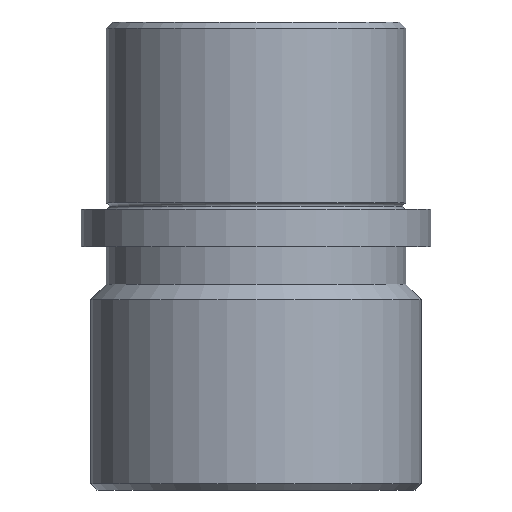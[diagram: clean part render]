
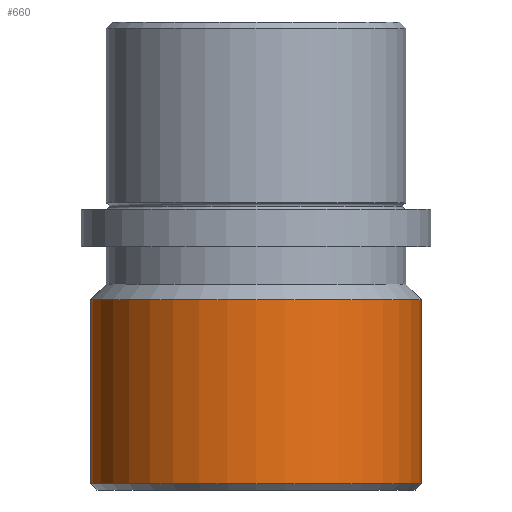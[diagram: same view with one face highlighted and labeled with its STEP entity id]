
A CAD part, front view. The second image highlights one B-rep face of the part: STEP entity #660.
In plain terms, the highlighted cylindrical face has radius 26.5 mm (diameter 53 mm), a partial arc.
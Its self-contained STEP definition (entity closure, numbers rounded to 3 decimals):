
#15 = ORIENTED_EDGE ( 'NONE', *, *, #903, .T. ) ;
#22 = DIRECTION ( 'NONE',  ( 1., 0., 0. ) ) ;
#46 = DIRECTION ( 'NONE',  ( 1., 0., 0. ) ) ;
#48 = EDGE_CURVE ( 'NONE', #386, #240, #779, .T. ) ;
#51 = DIRECTION ( 'NONE',  ( 0., 0., 1. ) ) ;
#91 = ORIENTED_EDGE ( 'NONE', *, *, #249, .F. ) ;
#118 = AXIS2_PLACEMENT_3D ( 'NONE', #262, #273, #46 ) ;
#175 = CARTESIAN_POINT ( 'NONE',  ( -26.5, 0., -44.5 ) ) ;
#181 = DIRECTION ( 'NONE',  ( 0., 0., 1. ) ) ;
#207 = AXIS2_PLACEMENT_3D ( 'NONE', #538, #51, #625 ) ;
#240 = VERTEX_POINT ( 'NONE', #707 ) ;
#249 = EDGE_CURVE ( 'NONE', #737, #786, #643, .T. ) ;
#262 = CARTESIAN_POINT ( 'NONE',  ( 0., 0., 0. ) ) ;
#273 = DIRECTION ( 'NONE',  ( 0., 0., 1. ) ) ;
#285 = AXIS2_PLACEMENT_3D ( 'NONE', #1026, #512, #22 ) ;
#290 = FACE_OUTER_BOUND ( 'NONE', #839, .T. ) ;
#319 = LINE ( 'NONE', #356, #514 ) ;
#356 = CARTESIAN_POINT ( 'NONE',  ( -26.5, 0., 0. ) ) ;
#386 = VERTEX_POINT ( 'NONE', #959 ) ;
#491 = CYLINDRICAL_SURFACE ( 'NONE', #118, 26.5 ) ;
#506 = LINE ( 'NONE', #961, #963 ) ;
#512 = DIRECTION ( 'NONE',  ( 0., 0., 1. ) ) ;
#514 = VECTOR ( 'NONE', #181, 1000. ) ;
#538 = CARTESIAN_POINT ( 'NONE',  ( 0., 0., -44.5 ) ) ;
#591 = ORIENTED_EDGE ( 'NONE', *, *, #48, .T. ) ;
#625 = DIRECTION ( 'NONE',  ( 1., 0., 0. ) ) ;
#643 = CIRCLE ( 'NONE', #207, 26.5 ) ;
#660 = ADVANCED_FACE ( 'NONE', ( #290 ), #491, .T. ) ;
#666 = EDGE_CURVE ( 'NONE', #386, #737, #319, .T. ) ;
#703 = DIRECTION ( 'NONE',  ( 0., 0., 1. ) ) ;
#707 = CARTESIAN_POINT ( 'NONE',  ( 26.5, 0., -74. ) ) ;
#737 = VERTEX_POINT ( 'NONE', #175 ) ;
#779 = CIRCLE ( 'NONE', #285, 26.5 ) ;
#786 = VERTEX_POINT ( 'NONE', #981 ) ;
#839 = EDGE_LOOP ( 'NONE', ( #862, #591, #15, #91 ) ) ;
#862 = ORIENTED_EDGE ( 'NONE', *, *, #666, .F. ) ;
#903 = EDGE_CURVE ( 'NONE', #240, #786, #506, .T. ) ;
#959 = CARTESIAN_POINT ( 'NONE',  ( -26.5, 0., -74. ) ) ;
#961 = CARTESIAN_POINT ( 'NONE',  ( 26.5, 0., 0. ) ) ;
#963 = VECTOR ( 'NONE', #703, 1000. ) ;
#981 = CARTESIAN_POINT ( 'NONE',  ( 26.5, 0., -44.5 ) ) ;
#1026 = CARTESIAN_POINT ( 'NONE',  ( 0., 0., -74. ) ) ;
